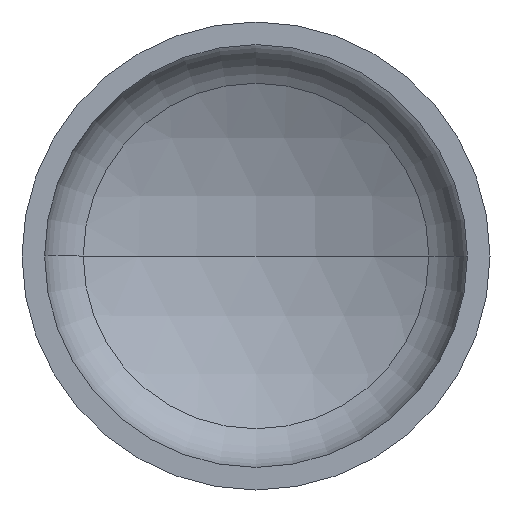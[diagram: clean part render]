
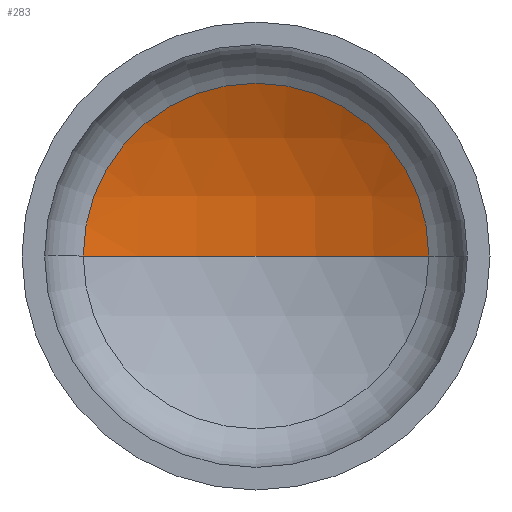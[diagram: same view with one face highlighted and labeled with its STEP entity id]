
A CAD part, front view. The second image highlights one B-rep face of the part: STEP entity #283.
In plain terms, the highlighted spherical face has radius 480 mm.
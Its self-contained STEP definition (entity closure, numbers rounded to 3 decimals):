
#26 = DIRECTION ( 'NONE',  ( 0., 0., -1. ) ) ;
#42 = AXIS2_PLACEMENT_3D ( 'NONE', #94, #26, #43 ) ;
#43 = DIRECTION ( 'NONE',  ( -1., 0., 0. ) ) ;
#48 = CARTESIAN_POINT ( 'NONE',  ( -221.443, 171.625, 0. ) ) ;
#75 = VERTEX_POINT ( 'NONE', #173 ) ;
#79 = SPHERICAL_SURFACE ( 'NONE', #42, 480. ) ;
#83 = AXIS2_PLACEMENT_3D ( 'NONE', #204, #202, #247 ) ;
#90 = AXIS2_PLACEMENT_3D ( 'NONE', #134, #152, #151 ) ;
#91 = CIRCLE ( 'NONE', #83, 480. ) ;
#94 = CARTESIAN_POINT ( 'NONE',  ( 0., -254.243, 0. ) ) ;
#99 = CARTESIAN_POINT ( 'NONE',  ( 0., 171.625, 0. ) ) ;
#103 = CIRCLE ( 'NONE', #90, 480. ) ;
#106 = AXIS2_PLACEMENT_3D ( 'NONE', #99, #133, #345 ) ;
#133 = DIRECTION ( 'NONE',  ( 0., -1., 0. ) ) ;
#134 = CARTESIAN_POINT ( 'NONE',  ( 0., -254.243, 0. ) ) ;
#151 = DIRECTION ( 'NONE',  ( -1., 0., 0. ) ) ;
#152 = DIRECTION ( 'NONE',  ( 0., 0., -1. ) ) ;
#173 = CARTESIAN_POINT ( 'NONE',  ( 0., 225.757, 0. ) ) ;
#202 = DIRECTION ( 'NONE',  ( 0., 0., 1. ) ) ;
#204 = CARTESIAN_POINT ( 'NONE',  ( 0., -254.243, 0. ) ) ;
#221 = CARTESIAN_POINT ( 'NONE',  ( 221.443, 171.625, 0. ) ) ;
#229 = EDGE_CURVE ( 'NONE', #245, #343, #271, .T. ) ;
#233 = EDGE_CURVE ( 'NONE', #75, #245, #103, .T. ) ;
#236 = EDGE_CURVE ( 'NONE', #75, #343, #91, .T. ) ;
#245 = VERTEX_POINT ( 'NONE', #221 ) ;
#247 = DIRECTION ( 'NONE',  ( 1., 0., 0. ) ) ;
#271 = CIRCLE ( 'NONE', #106, 221.443 ) ;
#283 = ADVANCED_FACE ( 'NONE', ( #409 ), #79, .F. ) ;
#291 = ORIENTED_EDGE ( 'NONE', *, *, #233, .T. ) ;
#309 = ORIENTED_EDGE ( 'NONE', *, *, #236, .F. ) ;
#320 = ORIENTED_EDGE ( 'NONE', *, *, #229, .T. ) ;
#332 = EDGE_LOOP ( 'NONE', ( #309, #291, #320 ) ) ;
#343 = VERTEX_POINT ( 'NONE', #48 ) ;
#345 = DIRECTION ( 'NONE',  ( 1., 0., 0. ) ) ;
#409 = FACE_OUTER_BOUND ( 'NONE', #332, .T. ) ;
